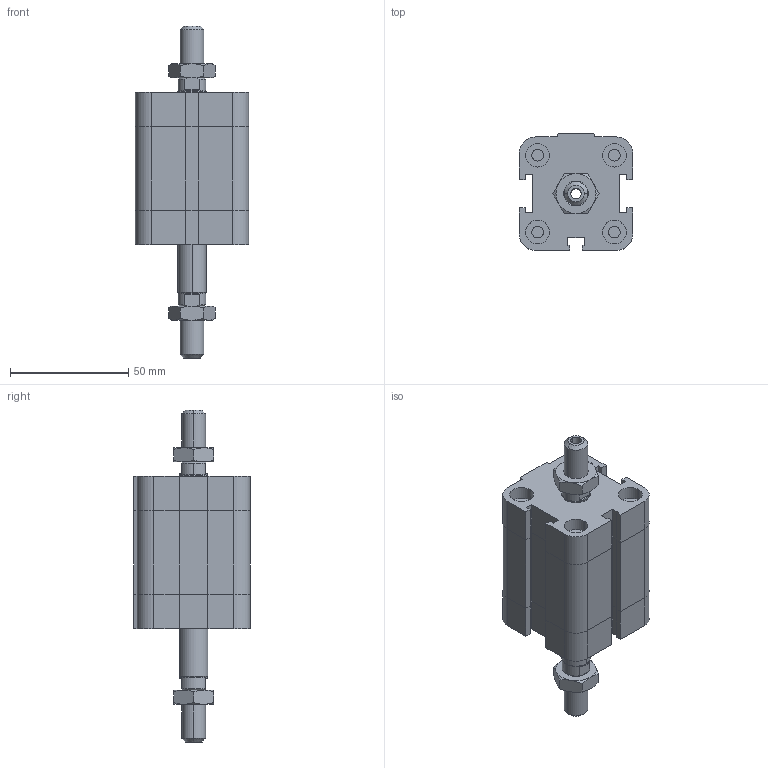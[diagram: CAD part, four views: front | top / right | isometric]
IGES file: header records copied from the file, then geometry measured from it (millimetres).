
Global section: file name: No Iges File Name specified; native system: Autodesk Inventor 2009; preprocessor: AutoDesk Inventor Iges Exporter R2009; author: maffial1; date: 20090420.142509; units: millimetre
Bounding box: 48 x 49.5 x 140.5 mm (x, y, z)
Volume: 135672.8 mm3; surface area: 33697.1 mm2
Topology: 4 solids, 4 shells, 262 faces, 580 edges, 346 vertices
Faces by surface type: plane 129, bspline 53, cone 38, cylinder 22, revolution 20
